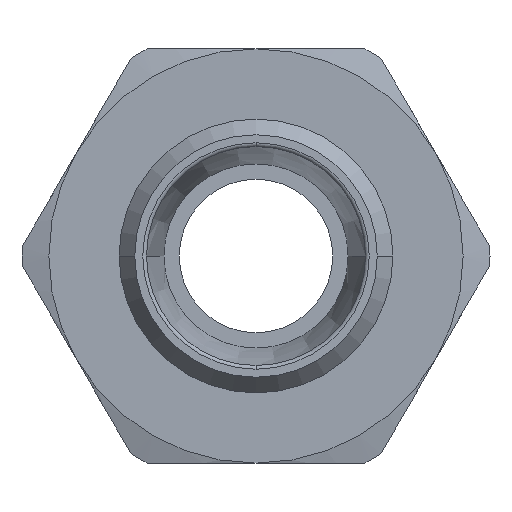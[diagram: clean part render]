
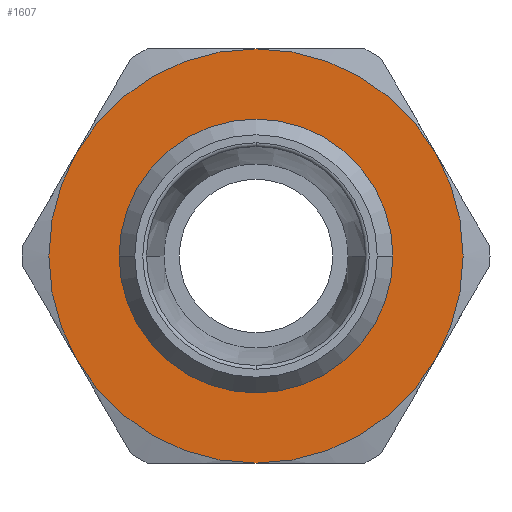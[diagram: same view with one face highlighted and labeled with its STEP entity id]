
A CAD part, left-side view. The second image highlights one B-rep face of the part: STEP entity #1607.
In plain terms, the highlighted planar face has unit normal (-1, 0, 0) as drawn and (0, 0, 1) by its records, which use the part's own axes.
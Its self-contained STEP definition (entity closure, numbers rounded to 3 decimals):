
#715=CARTESIAN_POINT('',(-8.8,0.,3.9));
#716=VERTEX_POINT('',#715);
#742=CARTESIAN_POINT('',(8.8,0.,3.9));
#743=VERTEX_POINT('',#742);
#751=CARTESIAN_POINT('',(0.,0.,3.9));
#752=DIRECTION('',(0.0,0.0,1.0));
#753=DIRECTION('',(-1.0,0.0,0.0));
#754=AXIS2_PLACEMENT_3D('',#751,#752,#753);
#755=CIRCLE('',#754,8.8);
#756=EDGE_CURVE('',#743,#716,#755,.T.);
#1487=CARTESIAN_POINT('',(0.,-8.8,3.9));
#1488=VERTEX_POINT('',#1487);
#1489=CARTESIAN_POINT('',(0.,0.,3.9));
#1490=DIRECTION('',(0.0,0.0,1.0));
#1491=DIRECTION('',(-1.0,0.0,0.0));
#1492=AXIS2_PLACEMENT_3D('',#1489,#1490,#1491);
#1493=CIRCLE('',#1492,8.8);
#1494=EDGE_CURVE('',#716,#1488,#1493,.T.);
#1496=CARTESIAN_POINT('',(0.,0.,3.9));
#1497=DIRECTION('',(0.0,0.0,1.0));
#1498=DIRECTION('',(-1.0,0.0,0.0));
#1499=AXIS2_PLACEMENT_3D('',#1496,#1497,#1498);
#1500=CIRCLE('',#1499,8.8);
#1501=EDGE_CURVE('',#1488,#743,#1500,.T.);
#1541=CARTESIAN_POINT('',(0.0,0.,3.9));
#1542=DIRECTION('',(0.0,0.0,1.0));
#1543=DIRECTION('',(1.0,0.0,0.0));
#1544=AXIS2_PLACEMENT_3D('',#1541,#1542,#1543);
#1545=PLANE('',#1544);
#1546=CARTESIAN_POINT('',(6.75,-11.691,3.9));
#1547=VERTEX_POINT('',#1546);
#1548=CARTESIAN_POINT('',(13.5,0.0,3.9));
#1549=VERTEX_POINT('',#1548);
#1550=CARTESIAN_POINT('',(0.,0.0,3.9));
#1551=DIRECTION('',(0.0,0.0,1.0));
#1552=DIRECTION('',(1.0,0.0,0.0));
#1553=AXIS2_PLACEMENT_3D('',#1550,#1551,#1552);
#1554=CIRCLE('',#1553,13.5);
#1555=EDGE_CURVE('',#1547,#1549,#1554,.T.);
#1556=ORIENTED_EDGE('',*,*,#1555,.T.);
#1557=CARTESIAN_POINT('',(6.75,11.691,3.9));
#1558=VERTEX_POINT('',#1557);
#1559=CARTESIAN_POINT('',(0.,0.0,3.9));
#1560=DIRECTION('',(0.0,0.0,1.0));
#1561=DIRECTION('',(1.0,0.0,0.0));
#1562=AXIS2_PLACEMENT_3D('',#1559,#1560,#1561);
#1563=CIRCLE('',#1562,13.5);
#1564=EDGE_CURVE('',#1549,#1558,#1563,.T.);
#1565=ORIENTED_EDGE('',*,*,#1564,.T.);
#1566=CARTESIAN_POINT('',(-6.75,11.691,3.9));
#1567=VERTEX_POINT('',#1566);
#1568=CARTESIAN_POINT('',(0.,0.0,3.9));
#1569=DIRECTION('',(0.0,0.0,1.0));
#1570=DIRECTION('',(1.0,0.0,0.0));
#1571=AXIS2_PLACEMENT_3D('',#1568,#1569,#1570);
#1572=CIRCLE('',#1571,13.5);
#1573=EDGE_CURVE('',#1558,#1567,#1572,.T.);
#1574=ORIENTED_EDGE('',*,*,#1573,.T.);
#1575=CARTESIAN_POINT('',(-13.5,0.,3.9));
#1576=VERTEX_POINT('',#1575);
#1577=CARTESIAN_POINT('',(0.,0.0,3.9));
#1578=DIRECTION('',(0.0,0.0,1.0));
#1579=DIRECTION('',(1.0,0.0,0.0));
#1580=AXIS2_PLACEMENT_3D('',#1577,#1578,#1579);
#1581=CIRCLE('',#1580,13.5);
#1582=EDGE_CURVE('',#1567,#1576,#1581,.T.);
#1583=ORIENTED_EDGE('',*,*,#1582,.T.);
#1584=CARTESIAN_POINT('',(-6.75,-11.691,3.9));
#1585=VERTEX_POINT('',#1584);
#1586=CARTESIAN_POINT('',(0.,0.0,3.9));
#1587=DIRECTION('',(0.0,0.0,1.0));
#1588=DIRECTION('',(1.0,0.0,0.0));
#1589=AXIS2_PLACEMENT_3D('',#1586,#1587,#1588);
#1590=CIRCLE('',#1589,13.5);
#1591=EDGE_CURVE('',#1576,#1585,#1590,.T.);
#1592=ORIENTED_EDGE('',*,*,#1591,.T.);
#1593=CARTESIAN_POINT('',(0.,0.0,3.9));
#1594=DIRECTION('',(0.0,0.0,1.0));
#1595=DIRECTION('',(1.0,0.0,0.0));
#1596=AXIS2_PLACEMENT_3D('',#1593,#1594,#1595);
#1597=CIRCLE('',#1596,13.5);
#1598=EDGE_CURVE('',#1585,#1547,#1597,.T.);
#1599=ORIENTED_EDGE('',*,*,#1598,.T.);
#1600=EDGE_LOOP('',(#1556,#1565,#1574,#1583,#1592,#1599));
#1601=FACE_OUTER_BOUND('',#1600,.T.);
#1602=ORIENTED_EDGE('',*,*,#1501,.F.);
#1603=ORIENTED_EDGE('',*,*,#1494,.F.);
#1604=ORIENTED_EDGE('',*,*,#756,.F.);
#1605=EDGE_LOOP('',(#1602,#1603,#1604));
#1606=FACE_BOUND('',#1605,.T.);
#1607=ADVANCED_FACE('',(#1601,#1606),#1545,.T.);
